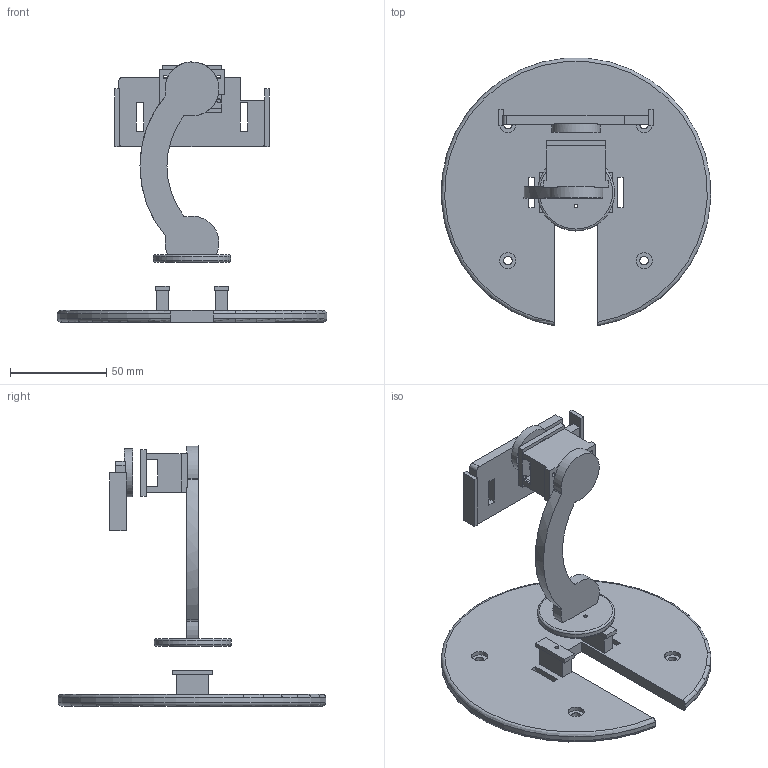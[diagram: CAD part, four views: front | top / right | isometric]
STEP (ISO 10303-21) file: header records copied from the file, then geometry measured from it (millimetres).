
FILE_DESCRIPTION(('Open CASCADE Model'),'2;1');
FILE_NAME('Open CASCADE Shape Model','2026-08-26T11:10:51',('Author'),( 'Open CASCADE'),'Open CASCADE STEP processor 7.9','Open CASCADE 7.9' ,'Unknown');
FILE_SCHEMA(('AUTOMOTIVE_DESIGN { 1 0 10303 214 1 1 1 1 }'));
Length unit declared in the file: millimetre
Products named in the file (5): C270_PanTilt_Printable_Assembly; PanServo_StabilityBase; CurvedArm_SG90_TiltHolder; SG90_RetainingCap; Logitech_C270_ClipCradle
Assembly tree (4 placements, depth 2):
  C270_PanTilt_Printable_Assembly
    PanServo_StabilityBase
    CurvedArm_SG90_TiltHolder
    SG90_RetainingCap
    Logitech_C270_ClipCradle
Bounding box: 139.83 x 138.88 x 134.98 mm (x, y, z)
Volume: 122517.3 mm3; surface area: 54071.3 mm2
Topology: 4 solids, 4 shells, 157 faces, 417 edges, 277 vertices
Faces by surface type: plane 109, cylinder 40, torus 4, bspline 4
Full cylindrical faces by diameter (mm): 1.9 x2, 2 x12, 2.3 x4, 3.2 x2, 4.4 x4, 8.4 x4, 21 x1, 25 x1, 40 x1
Entity records: 10864 total; most frequent: CARTESIAN_POINT 2630, DIRECTION 1391, ORIENTED_EDGE 834, PCURVE 834, DEFINITIONAL_REPRESENTATION 834, LINE 784, VECTOR 784, EDGE_CURVE 417
